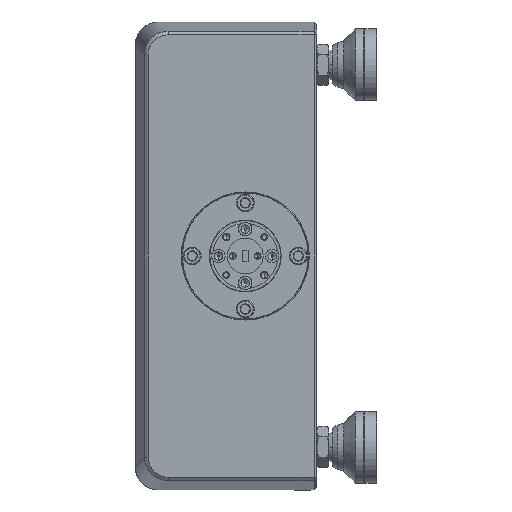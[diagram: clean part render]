
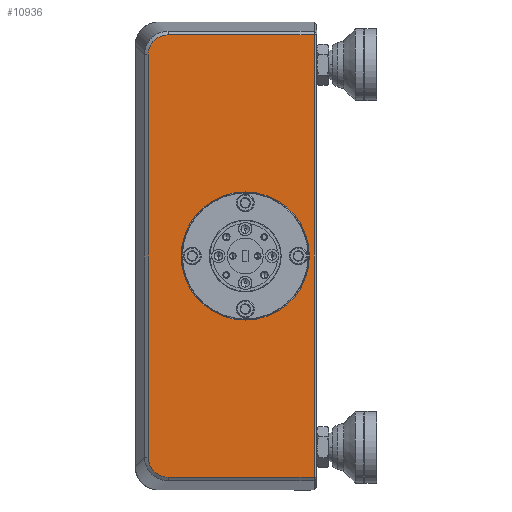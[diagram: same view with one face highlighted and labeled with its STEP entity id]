
A CAD part, left-side view. The second image highlights one B-rep face of the part: STEP entity #10936.
In plain terms, the highlighted planar face has unit normal (-1, 0, 0).
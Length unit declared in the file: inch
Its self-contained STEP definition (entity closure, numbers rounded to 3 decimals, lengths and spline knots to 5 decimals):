
#237 = FACE_BOUND ( 'NONE', #58869, .T. ) ;
#2189 = CARTESIAN_POINT ( 'NONE',  ( -2.75, 4.86115, 2.1034 ) ) ;
#4380 = EDGE_CURVE ( 'NONE', #113617, #32970, #14152, .T. ) ;
#7069 = CARTESIAN_POINT ( 'NONE',  ( -2.75, 4.67972, 2.31233 ) ) ;
#7648 = CARTESIAN_POINT ( 'NONE',  ( -2.75, 4.86115, 2.13095 ) ) ;
#9677 = CARTESIAN_POINT ( 'NONE',  ( -2.75, 3.84607, 0. ) ) ;
#10936 = ADVANCED_FACE ( 'NONE', ( #71105, #237 ), #34041, .F. ) ;
#11296 = B_SPLINE_CURVE_WITH_KNOTS ( 'NONE', 3,
 ( #59337, #7069, #68619, #77908, #24498, #15818, #113284, #87243, #7648, #11590 ),
 .UNSPECIFIED., .F., .F.,
 ( 4, 2, 2, 2, 4 ),
 ( 0., 0.25, 0.5, 0.75, 1. ),
 .UNSPECIFIED. ) ;
#11449 = EDGE_CURVE ( 'NONE', #101700, #30054, #73839, .T. ) ;
#11590 = CARTESIAN_POINT ( 'NONE',  ( -2.75, 4.86115, 2.1034 ) ) ;
#14152 = CIRCLE ( 'NONE', #88373, 0.67 ) ;
#14401 = CARTESIAN_POINT ( 'NONE',  ( -2.75, 4.04607, 2.31232 ) ) ;
#14800 = EDGE_CURVE ( 'NONE', #62604, #70590, #11296, .T. ) ;
#14967 = CARTESIAN_POINT ( 'NONE',  ( -2.75, 4.86115, -2.13089 ) ) ;
#15818 = CARTESIAN_POINT ( 'NONE',  ( -2.75, 4.81943, 2.2321 ) ) ;
#16308 = VECTOR ( 'NONE', #83738, 39.37008 ) ;
#16755 = CARTESIAN_POINT ( 'NONE',  ( -2.75, 3.84607, -0.67 ) ) ;
#17226 = CARTESIAN_POINT ( 'NONE',  ( -2.75, 4.81943, -2.2321 ) ) ;
#17540 = VERTEX_POINT ( 'NONE', #70239 ) ;
#18389 = VECTOR ( 'NONE', #59081, 39.37008 ) ;
#19869 = CARTESIAN_POINT ( 'NONE',  ( -2.75, 3.84607, 0.67 ) ) ;
#20340 = EDGE_CURVE ( 'NONE', #17540, #101700, #43892, .T. ) ;
#23842 = AXIS2_PLACEMENT_3D ( 'NONE', #87440, #43310, #93370 ) ;
#24498 = CARTESIAN_POINT ( 'NONE',  ( -2.75, 4.78092, 2.2706 ) ) ;
#25853 = B_SPLINE_CURVE_WITH_KNOTS ( 'NONE', 3,
 ( #78767, #14967, #87510, #41655, #17226, #33537, #60723, #50984, #114122, #34108 ),
 .UNSPECIFIED., .F., .F.,
 ( 4, 2, 2, 2, 4 ),
 ( 0., 0.25, 0.5, 0.75, 1. ),
 .UNSPECIFIED. ) ;
#29748 = CARTESIAN_POINT ( 'NONE',  ( -2.75, 3.12607, 0. ) ) ;
#30054 = VERTEX_POINT ( 'NONE', #77680 ) ;
#32204 = LINE ( 'NONE', #68105, #89981 ) ;
#32926 = CARTESIAN_POINT ( 'NONE',  ( -2.75, 4.04607, -2.31232 ) ) ;
#32970 = VERTEX_POINT ( 'NONE', #16755 ) ;
#33537 = CARTESIAN_POINT ( 'NONE',  ( -2.75, 4.78093, -2.27061 ) ) ;
#34041 = PLANE ( 'NONE',  #23842 ) ;
#34108 = CARTESIAN_POINT ( 'NONE',  ( -2.75, 4.65223, -2.31232 ) ) ;
#36782 = CARTESIAN_POINT ( 'NONE',  ( -2.75, 4.86115, -2.1034 ) ) ;
#40627 = ORIENTED_EDGE ( 'NONE', *, *, #11449, .T. ) ;
#41226 = EDGE_CURVE ( 'NONE', #32970, #113617, #113759, .T. ) ;
#41655 = CARTESIAN_POINT ( 'NONE',  ( -2.75, 4.83492, -2.20886 ) ) ;
#41774 = ORIENTED_EDGE ( 'NONE', *, *, #20340, .T. ) ;
#43310 = DIRECTION ( 'NONE',  ( 1., 0., 0. ) ) ;
#43892 = LINE ( 'NONE', #32926, #112785 ) ;
#48957 = EDGE_CURVE ( 'NONE', #70590, #96004, #32204, .T. ) ;
#50984 = CARTESIAN_POINT ( 'NONE',  ( -2.75, 4.70722, -2.30689 ) ) ;
#52505 = DIRECTION ( 'NONE',  ( -1., 0., 0. ) ) ;
#55178 = EDGE_CURVE ( 'NONE', #30054, #62604, #102656, .T. ) ;
#58869 = EDGE_LOOP ( 'NONE', ( #91397, #102568 ) ) ;
#59081 = DIRECTION ( 'NONE',  ( 0., 1., 0. ) ) ;
#59337 = CARTESIAN_POINT ( 'NONE',  ( -2.75, 4.65223, 2.31232 ) ) ;
#60723 = CARTESIAN_POINT ( 'NONE',  ( -2.75, 4.75769, -2.28609 ) ) ;
#61120 = CARTESIAN_POINT ( 'NONE',  ( -2.75, 3.84607, 0. ) ) ;
#62604 = VERTEX_POINT ( 'NONE', #78812 ) ;
#63524 = ORIENTED_EDGE ( 'NONE', *, *, #55178, .T. ) ;
#64180 = ORIENTED_EDGE ( 'NONE', *, *, #14800, .T. ) ;
#68105 = CARTESIAN_POINT ( 'NONE',  ( -2.75, 4.86115, 0. ) ) ;
#68619 = CARTESIAN_POINT ( 'NONE',  ( -2.75, 4.70722, 2.30689 ) ) ;
#69872 = CARTESIAN_POINT ( 'NONE',  ( -2.75, 3.12607, -2.31232 ) ) ;
#70239 = CARTESIAN_POINT ( 'NONE',  ( -2.75, 4.65223, -2.31232 ) ) ;
#70590 = VERTEX_POINT ( 'NONE', #2189 ) ;
#71105 = FACE_OUTER_BOUND ( 'NONE', #99753, .T. ) ;
#71177 = AXIS2_PLACEMENT_3D ( 'NONE', #61120, #52505, #96613 ) ;
#71244 = DIRECTION ( 'NONE',  ( -1., 0., 0. ) ) ;
#73839 = LINE ( 'NONE', #29748, #16308 ) ;
#77680 = CARTESIAN_POINT ( 'NONE',  ( -2.75, 3.12607, 2.31232 ) ) ;
#77908 = CARTESIAN_POINT ( 'NONE',  ( -2.75, 4.75769, 2.28609 ) ) ;
#78767 = CARTESIAN_POINT ( 'NONE',  ( -2.75, 4.86115, -2.1034 ) ) ;
#78812 = CARTESIAN_POINT ( 'NONE',  ( -2.75, 4.65223, 2.31232 ) ) ;
#79272 = DIRECTION ( 'NONE',  ( 0., -1., 0. ) ) ;
#80536 = DIRECTION ( 'NONE',  ( 0., 0., 1. ) ) ;
#83738 = DIRECTION ( 'NONE',  ( 0., 0., 1. ) ) ;
#87243 = CARTESIAN_POINT ( 'NONE',  ( -2.75, 4.85572, 2.15839 ) ) ;
#87440 = CARTESIAN_POINT ( 'NONE',  ( -2.75, 4.04607, 0. ) ) ;
#87510 = CARTESIAN_POINT ( 'NONE',  ( -2.75, 4.85571, -2.15839 ) ) ;
#88373 = AXIS2_PLACEMENT_3D ( 'NONE', #9677, #71244, #80536 ) ;
#89981 = VECTOR ( 'NONE', #112770, 39.37008 ) ;
#90792 = ORIENTED_EDGE ( 'NONE', *, *, #48957, .T. ) ;
#91397 = ORIENTED_EDGE ( 'NONE', *, *, #4380, .F. ) ;
#93370 = DIRECTION ( 'NONE',  ( 0., 0., -1. ) ) ;
#96004 = VERTEX_POINT ( 'NONE', #36782 ) ;
#96613 = DIRECTION ( 'NONE',  ( 0., 0., 1. ) ) ;
#99753 = EDGE_LOOP ( 'NONE', ( #103130, #41774, #40627, #63524, #64180, #90792 ) ) ;
#101700 = VERTEX_POINT ( 'NONE', #69872 ) ;
#102568 = ORIENTED_EDGE ( 'NONE', *, *, #41226, .F. ) ;
#102656 = LINE ( 'NONE', #14401, #18389 ) ;
#103130 = ORIENTED_EDGE ( 'NONE', *, *, #111209, .T. ) ;
#111209 = EDGE_CURVE ( 'NONE', #96004, #17540, #25853, .T. ) ;
#112770 = DIRECTION ( 'NONE',  ( 0., 0., -1. ) ) ;
#112785 = VECTOR ( 'NONE', #79272, 39.37008 ) ;
#113284 = CARTESIAN_POINT ( 'NONE',  ( -2.75, 4.83491, 2.20886 ) ) ;
#113617 = VERTEX_POINT ( 'NONE', #19869 ) ;
#113759 = CIRCLE ( 'NONE', #71177, 0.67 ) ;
#114122 = CARTESIAN_POINT ( 'NONE',  ( -2.75, 4.67977, -2.31233 ) ) ;
